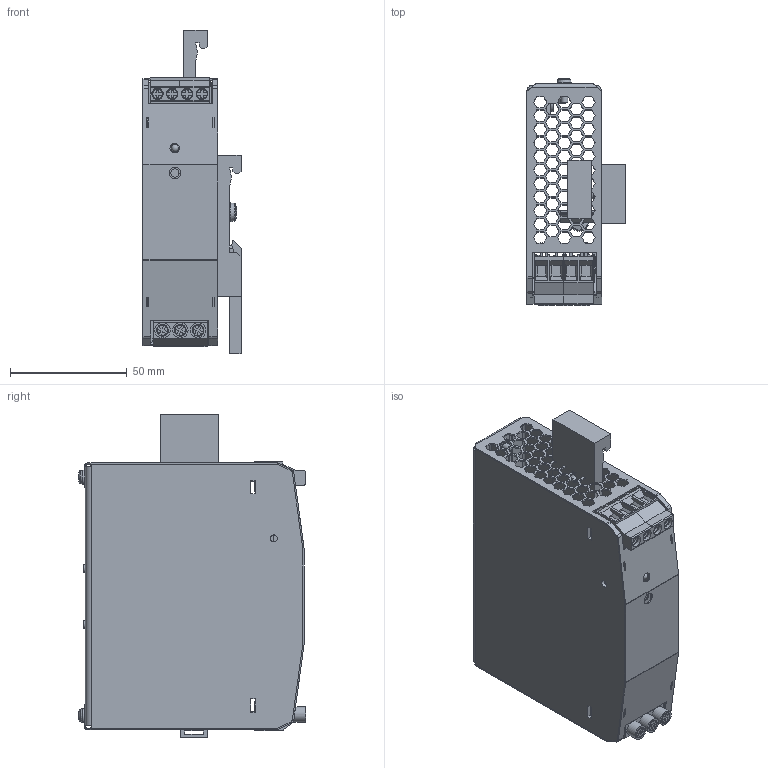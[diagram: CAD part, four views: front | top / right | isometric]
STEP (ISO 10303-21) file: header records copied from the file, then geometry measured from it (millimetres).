
FILE_DESCRIPTION( ( 'Unknown' ), '1' );
FILE_NAME( 'J:/DESBAKUP/3D DATA/TIB/TIB_080/Customer Model/TIB_080_Option.stp', 'Unknown', ( 'Unknown' ), ( 'Unknown' ), 'PSStep 14.0', 'Unknown', ' ' );
FILE_SCHEMA( ( 'AUTOMOTIVE_DESIGN { 1 0 10303 214 1 1 1 1 }' ) );
Length unit declared in the file: millimetre
Products named in the file (17): Assem1; MODULE; DIN_HOOK; DIN_LATCH; SCREW1-oa0
Bounding box: 42 x 97.18 x 138.61 mm (x, y, z)
Volume: 125728.2 mm3; surface area: 157535.3 mm2
Topology: 32 solids, 32 shells, 3818 faces, 11094 edges, 7436 vertices
Faces by surface type: plane 3124, cylinder 410, bspline 120, cone 78, torus 78, sphere 8
Full cylindrical faces by diameter (mm): 0.2 x12, 0.5 x4, 2 x2, 2.459 x4, 3 x20, 3.005 x8, 3.2 x16, 3.242 x2, 3.5 x6, 3.505 x8, 3.7 x4, 4 x14, 4.3 x2, 4.602 x8, 4.749 x8, 4.9 x6, 4.901 x8, 4.904 x8, 5 x8, 5.131 x4, 5.2 x2, 5.6 x6, 6.3 x10, 6.6 x6, 7.9 x2
Entity records: 82497 total; most frequent: CARTESIAN_POINT 17681, ORIENTED_EDGE 10620, DIRECTION 9145, EDGE_CURVE 5310, LINE 4361, VECTOR 4361, VERTEX_POINT 3646, EDGE_LOOP 2422
